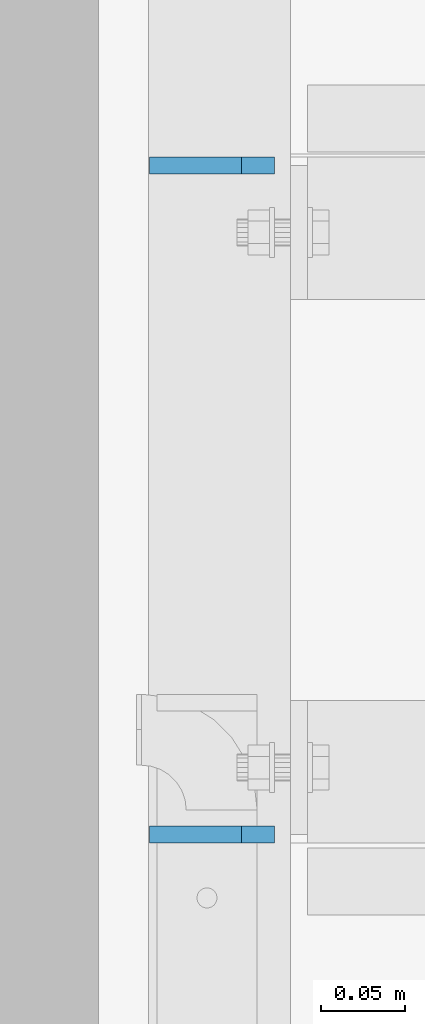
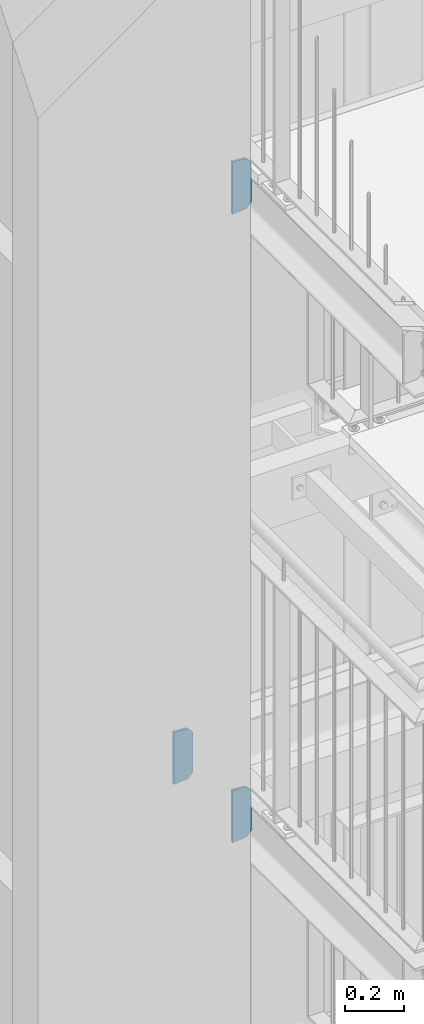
# One storey, part 157 of 825: 3 plates, 6 openings.
"""IFC2X3 building model written with IfcOpenShell, lengths in millimetres."""

from ifc_helpers import new_model, entity, si_unit, converted_unit, frame, origin, origin_with_axes, place, context, project, spatial, polyline, outline, extrude, material, layer, layer_set, element, save


model = new_model("IFC2X3")

# Units and contexts
model_context = context("Model", 3, precision=1e-09, world=origin_with_axes())
ifc_project = project(units=[si_unit("LENGTHUNIT", "METRE", prefix="MILLI"), si_unit("AREAUNIT", "SQUARE_METRE"), si_unit("VOLUMEUNIT", "CUBIC_METRE"), converted_unit("PLANEANGLEUNIT", "DEGREE", entity("IfcPlaneAngleMeasure", 0.01745329), si_unit("PLANEANGLEUNIT", "RADIAN"), dimensions=[0, 0, 0, 0, 0, 0, 0])], contexts=[model_context])

# Site, building, storey
site_placement = place(None, origin_with_axes())
site = spatial("IfcSite", under=ifc_project, at=site_placement, Name="Cnopf'sche Kinderklinik", CompositionType="ELEMENT")
building_placement = place(site_placement, origin_with_axes())
building = spatial("IfcBuilding", under=site, at=building_placement, Name="Struktur 1", CompositionType="ELEMENT")
storey_placement = place(building_placement, origin_with_axes())
storey = spatial("IfcBuildingStorey", under=building, at=storey_placement, Name="Default Storey", CompositionType="ELEMENT", Elevation=0.0)

# Plate, openings
ifc_material = material(Name="S235JR")
ifc_layer = layer(ifc_material, 10.0)
ifc_layer_set = layer_set([ifc_layer], Name="S235JR")
plate_1_placement = place(None, frame((3312.213402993, 5746.736971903, 15196.855161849), z_axis=(0.0, -1.0, 0.0), x_axis=(-0.996815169, 0.0, 0.079746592)))
plate_1 = element("IfcPlate", 1, at=plate_1_placement, inside=storey, material=ifc_layer_set, Name="Stiffener#1", ObjectType="Stiffener#1", context=model_context, shape_type="SweptSolid", body=[
    extrude(outline(polyline([(0.0, 0.0), (75.239625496, 0.0), (57.877952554, 217.017159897), (-16.404697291, 205.05517107), (0.0, 0.0)])), origin_with_axes(), (0.0, 0.0, 1.0), 10.0),
])
opening_1_placement = place(plate_1_placement, frame((0.0, 0.0, -0.01), z_axis=(0.0, 0.0, 1.0), x_axis=(1.0, 0.0, 0.0)))
element("IfcOpeningElement", 2, at=opening_1_placement, cuts=plate_1, ObjectType="Opening", context=model_context, shape_type="SweptSolid", body=[
    extrude(outline(polyline([(-16.404697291, 205.05517107), (-14.809765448, 185.118867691), (3.34092195, 208.23487558), (-16.404697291, 205.05517107)])), origin(), (0.0, 0.0, 1.0), 10.02),
])
opening_2_placement = place(plate_1_placement, frame((0.0, 0.0, -0.01), z_axis=(0.0, 0.0, 1.0), x_axis=(1.0, 0.0, 0.0)))
element("IfcOpeningElement", 3, at=opening_2_placement, cuts=plate_1, ObjectType="Opening", context=model_context, shape_type="SweptSolid", body=[
    extrude(outline(polyline([(0.0, 0.0), (20.0, 0.0), (-1.594931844, 19.936303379), (0.0, 0.0)])), origin(), (0.0, 0.0, 1.0), 10.02),
])

plate_2_placement = place(None, frame((3312.213402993, 6146.736971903, 15196.855161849), z_axis=(0.0, -1.0, 0.0), x_axis=(-0.996815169, 0.0, 0.079746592)))
plate_2 = element("IfcPlate", 4, at=plate_2_placement, inside=storey, material=ifc_layer_set, Name="Stiffener#1", ObjectType="Stiffener#1", context=model_context, shape_type="SweptSolid", body=[
    extrude(outline(polyline([(0.0, 0.0), (75.239625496, 0.0), (57.877952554, 217.017159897), (-16.404697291, 205.05517107), (0.0, 0.0)])), origin_with_axes(), (0.0, 0.0, 1.0), 10.0),
])
opening_3_placement = place(plate_2_placement, frame((0.0, 0.0, -0.01), z_axis=(0.0, 0.0, 1.0), x_axis=(1.0, 0.0, 0.0)))
element("IfcOpeningElement", 5, at=opening_3_placement, cuts=plate_2, ObjectType="Opening", context=model_context, shape_type="SweptSolid", body=[
    extrude(outline(polyline([(-16.404697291, 205.05517107), (-14.809765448, 185.118867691), (3.34092195, 208.23487558), (-16.404697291, 205.05517107)])), origin(), (0.0, 0.0, 1.0), 10.02),
])
opening_4_placement = place(plate_2_placement, frame((0.0, 0.0, -0.01), z_axis=(0.0, 0.0, 1.0), x_axis=(1.0, 0.0, 0.0)))
element("IfcOpeningElement", 6, at=opening_4_placement, cuts=plate_2, ObjectType="Opening", context=model_context, shape_type="SweptSolid", body=[
    extrude(outline(polyline([(0.0, 0.0), (20.0, 0.0), (-1.594931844, 19.936303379), (0.0, 0.0)])), origin(), (0.0, 0.0, 1.0), 10.02),
])

plate_3_placement = place(None, frame((3312.213402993, 5746.736971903, 17816.855161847), z_axis=(0.0, -1.0, 0.0), x_axis=(-0.996815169, 0.0, 0.079746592)))
plate_3 = element("IfcPlate", 7, at=plate_3_placement, inside=storey, material=ifc_layer_set, Name="Stiffener#1", ObjectType="Stiffener#1", context=model_context, shape_type="SweptSolid", body=[
    extrude(outline(polyline([(0.0, 0.0), (75.239625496, 0.0), (57.877952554, 217.017159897), (-16.404697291, 205.05517107), (0.0, 0.0)])), origin_with_axes(), (0.0, 0.0, 1.0), 10.0),
])
opening_5_placement = place(plate_3_placement, frame((0.0, 0.0, -0.01), z_axis=(0.0, 0.0, 1.0), x_axis=(1.0, 0.0, 0.0)))
element("IfcOpeningElement", 8, at=opening_5_placement, cuts=plate_3, ObjectType="Opening", context=model_context, shape_type="SweptSolid", body=[
    extrude(outline(polyline([(-16.404697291, 205.05517107), (-14.809765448, 185.118867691), (3.34092195, 208.23487558), (-16.404697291, 205.05517107)])), origin(), (0.0, 0.0, 1.0), 10.02),
])
opening_6_placement = place(plate_3_placement, frame((0.0, 0.0, -0.01), z_axis=(0.0, 0.0, 1.0), x_axis=(1.0, 0.0, 0.0)))
element("IfcOpeningElement", 9, at=opening_6_placement, cuts=plate_3, ObjectType="Opening", context=model_context, shape_type="SweptSolid", body=[
    extrude(outline(polyline([(0.0, 0.0), (20.0, 0.0), (-1.594931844, 19.936303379), (0.0, 0.0)])), origin(), (0.0, 0.0, 1.0), 10.02),
])

save(model, "model.ifc")
